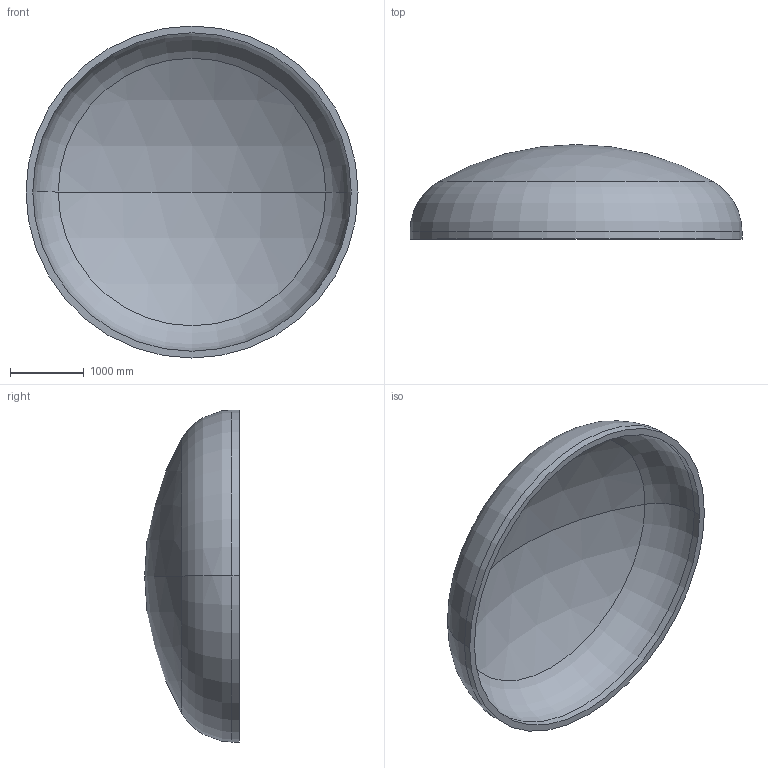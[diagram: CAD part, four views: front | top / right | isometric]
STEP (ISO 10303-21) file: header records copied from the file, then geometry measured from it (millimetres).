
FILE_DESCRIPTION (( 'STEP AP203' ), '1' );
FILE_NAME ('DIN 28013 Korbbogenform_-_Boden DIN 28013 - 4500 x 100 - I - s=92.step', '2016-07-01T23:48:11', ( '' ), ( '' ), 'SwSTEP 2.0', 'SolidWorks 2013', '' );
FILE_SCHEMA (( 'CONFIG_CONTROL_DESIGN' ));
Length unit declared in the file: millimetre
Products named in the file (1): DIN 28013 Korbbogenform_-_Boden DIN 28013 - 4500 x 100 - I - s=92
Bounding box: 4500 x 1282.29 x 4500 mm (x, y, z)
Volume: 2101240595.1 mm3; surface area: 46970883 mm2
Topology: 1 solids, 1 shells, 13 faces, 24 edges, 14 vertices
Faces by surface type: torus 4, cylinder 4, sphere 4, plane 1
Entity records: 407 total; most frequent: DIRECTION 72, CARTESIAN_POINT 52, ORIENTED_EDGE 48, AXIS2_PLACEMENT_3D 34, EDGE_CURVE 24, CIRCLE 20, VERTEX_POINT 14, EDGE_LOOP 14
